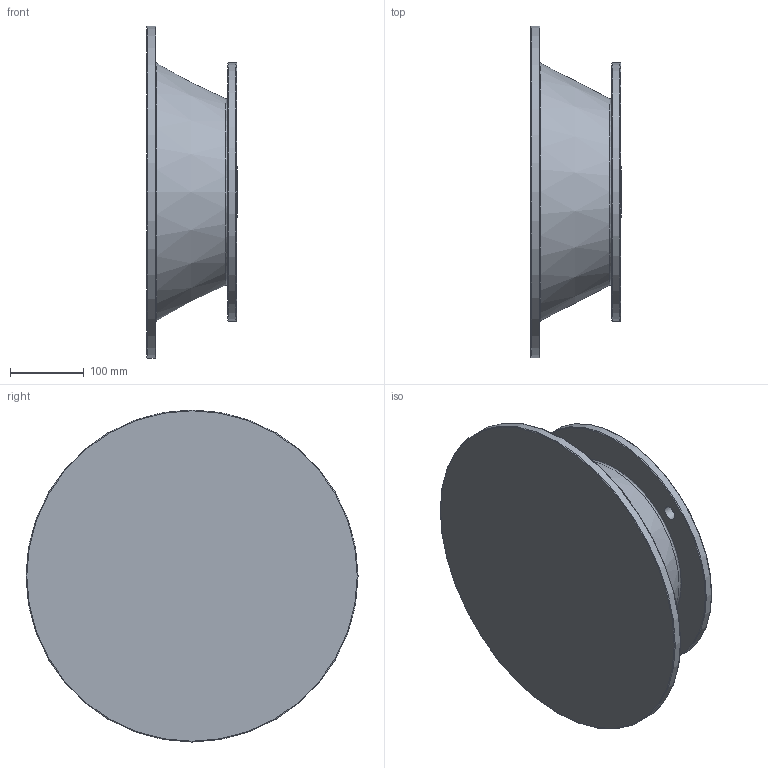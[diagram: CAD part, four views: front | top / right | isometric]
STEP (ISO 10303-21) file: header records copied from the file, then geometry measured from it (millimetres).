
FILE_DESCRIPTION((''),'2;1');
FILE_NAME('F:\PAWEŁ\ZLECENIA\2011 DualSystem\Przekładnie DK\001 Modele\DKAB120_\DK_120_STEP\160_B5_L121,5.stp','2012-08-20T12:06:31',('admin'),(''),'Autodesk Inventor 2009','Autodesk Inventor 2009','');
FILE_SCHEMA(('AUTOMOTIVE_DESIGN { 1 0 10303 214 1 1 1 1 }'));
Length unit declared in the file: millimetre
Products named in the file (1): 160_B5_L121,5
Bounding box: 122 x 450 x 450 mm (x, y, z)
Volume: 3357351.8 mm3; surface area: 686674.1 mm2
Topology: 1 solids, 1 shells, 30 faces, 58 edges, 36 vertices
Faces by surface type: plane 11, cylinder 6, bspline 6, torus 5, cone 2
Full cylindrical faces by diameter (mm): 68 x1, 236.514 x1, 250 x1, 350 x1, 450 x1
Entity records: 895 total; most frequent: CARTESIAN_POINT 281, DIRECTION 120, ORIENTED_EDGE 80, EDGE_LOOP 62, AXIS2_PLACEMENT_3D 55, EDGE_CURVE 40, VERTEX_POINT 36, FACE_BOUND 32
